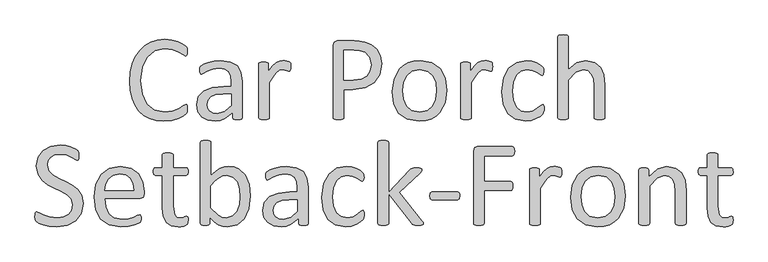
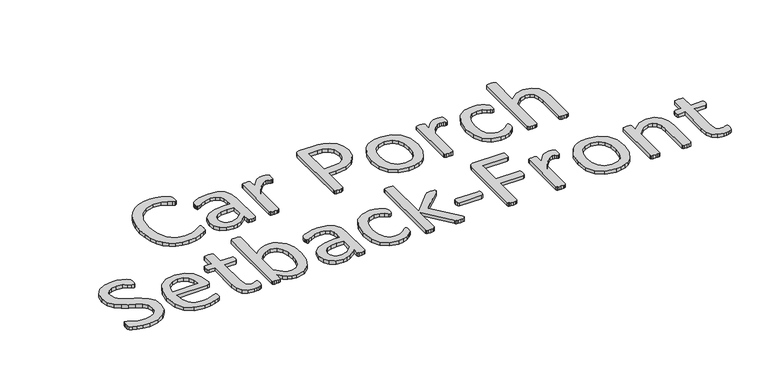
"""IFC4 building model written with IfcOpenShell, lengths in millimetres: proxy geometry, Marker-Setback Bldg Distance : Setback-Car Porch-Front."""

import ifcopenshell
import ifcopenshell.guid

model = None  # the IFC model being written
_history = None  # IfcOwnerHistory: only IFC2X3 demands one
_inside = {}  # id of a spatial element -> (the spatial element, [elements in it])
_under = {}  # id of a project, library or spatial element -> (it, [spatial elements below it])
_declared = {}  # id of a project -> (the project, [libraries it declares])
_typed = {}  # id of a type object -> (the type object, [elements of that type])
_made_of = {}  # id of a material, layer set ... -> (it, [elements and type objects made of it])


def new_model(schema):
    """Start an empty IFC model of exactly this schema.

    Asked for "IFC4X3", IfcOpenShell would pick the latest addendum, in which some entities
    have other attributes; the version numbers below select the first issue.
    IFC2X3 requires an IfcOwnerHistory on every rooted entity: one is made here for all.
    """
    global model, _history
    if schema == "IFC4X3":
        model = ifcopenshell.file(schema_version=(4, 3, 0, 0))
    else:
        model = ifcopenshell.file(schema=schema)
    _inside.clear()
    _under.clear()
    _declared.clear()
    _typed.clear()
    _made_of.clear()
    _history = None
    if model.schema == "IFC2X3":
        org = make("IfcOrganization", Name="unknown")
        user = make(
            "IfcPersonAndOrganization",
            ThePerson=make("IfcPerson", FamilyName="unknown"),
            TheOrganization=org,
        )
        app = make(
            "IfcApplication",
            ApplicationDeveloper=org,
            Version="unknown",
            ApplicationFullName="unknown",
            ApplicationIdentifier="unknown",
        )
        _history = make(
            "IfcOwnerHistory",
            OwningUser=user,
            OwningApplication=app,
            ChangeAction="ADDED",
            CreationDate=0,
        )
    return model


def make(cls, **values):
    """One entity of the class cls with the attributes given. An attribute that is None is left unset."""
    return model.create_entity(
        cls, **{name: value for name, value in values.items() if value is not None}
    )


def rooted(cls, **values):
    """An entity with a GlobalId (a new one), such as an element, a storey or a relation."""
    return make(cls, GlobalId=ifcopenshell.guid.new(), OwnerHistory=_history, **values)


def si_unit(unit_type, name, prefix=None):
    """IfcSIUnit, for example si_unit("LENGTHUNIT", "METRE", prefix="MILLI")."""
    return make("IfcSIUnit", UnitType=unit_type, Prefix=prefix, Name=name)


def assignment(units):
    """IfcUnitAssignment: the units of a project."""
    return None if units is None else make("IfcUnitAssignment", Units=units)


def point(xyz):
    """IfcCartesianPoint."""
    return None if xyz is None else make("IfcCartesianPoint", Coordinates=xyz)


def direction(xyz):
    """IfcDirection."""
    return None if xyz is None else make("IfcDirection", DirectionRatios=xyz)


def frame(location, z_axis=None, x_axis=None):
    """IfcAxis2Placement3D, a coordinate frame: its origin and axes. An axis left out is left unset."""
    return make(
        "IfcAxis2Placement3D",
        Location=point(location),
        Axis=direction(z_axis),
        RefDirection=direction(x_axis),
    )


def origin():
    """The frame at (0, 0, 0) with its axes left unset."""
    return frame((0.0, 0.0, 0.0))


def origin_with_axes():
    """The frame at (0, 0, 0) with the z axis (0, 0, 1) and the x axis (1, 0, 0) written out."""
    return frame((0.0, 0.0, 0.0), z_axis=(0.0, 0.0, 1.0), x_axis=(1.0, 0.0, 0.0))


def place(relative_to, where):
    """IfcLocalPlacement: puts the frame where relative to a parent placement (None: the world)."""
    return make(
        "IfcLocalPlacement", PlacementRelTo=relative_to, RelativePlacement=where
    )


def context(
    kind, dimensions, precision=None, world=None, true_north=None, identifier=None
):
    """IfcGeometricRepresentationContext, for example the 3D "Model" context."""
    return make(
        "IfcGeometricRepresentationContext",
        ContextIdentifier=identifier,
        ContextType=kind,
        CoordinateSpaceDimension=dimensions,
        Precision=precision,
        WorldCoordinateSystem=world,
        TrueNorth=true_north,
    )


def project(units=None, contexts=None):
    """IfcProject with its units and contexts."""
    return rooted(
        "IfcProject",
        Name="project",
        RepresentationContexts=contexts,
        UnitsInContext=assignment(units),
    )


def spatial(cls, under=None, at=None, **own):
    """A site, building, storey or space (cls), placed at a placement, below another one or the project."""
    s = rooted(cls, ObjectPlacement=at, **own)
    if under is not None:
        _under.setdefault(under.id(), (under, []))[1].append(s)
    return s


def polyline(points):
    """IfcPolyline through the points."""
    return make("IfcPolyline", Points=[point(p) for p in points])


def outline(outer, holes=None, kind="AREA"):
    """IfcArbitraryClosedProfileDef: a profile drawn as a closed curve; with holes, ...WithVoids."""
    if holes is None:
        return make("IfcArbitraryClosedProfileDef", ProfileType=kind, OuterCurve=outer)
    return make(
        "IfcArbitraryProfileDefWithVoids",
        ProfileType=kind,
        OuterCurve=outer,
        InnerCurves=holes,
    )


def extrude(swept, where, along, depth):
    """IfcExtrudedAreaSolid: the profile swept, set in the frame where, extruded along a direction by depth."""
    return make(
        "IfcExtrudedAreaSolid",
        SweptArea=swept,
        Position=where,
        ExtrudedDirection=direction(along),
        Depth=depth,
    )


def shape(context_of_items, identifier, shape_type, items):
    """IfcShapeRepresentation: the items that make up one representation, for example the "Body"."""
    return make(
        "IfcShapeRepresentation",
        ContextOfItems=context_of_items,
        RepresentationIdentifier=identifier,
        RepresentationType=shape_type,
        Items=items,
    )


def source(mapping_origin, context_of_items, identifier, shape_type, items):
    """IfcRepresentationMap: a shape defined once, which mapped items show again and again."""
    return make(
        "IfcRepresentationMap",
        MappingOrigin=mapping_origin,
        MappedRepresentation=shape(context_of_items, identifier, shape_type, items),
    )


def transform(
    local_origin,
    x_axis=None,
    y_axis=None,
    z_axis=None,
    scale=None,
    scale2=None,
    scale3=None,
    uniform=True,
):
    """IfcCartesianTransformationOperator3D, or its non-uniform kind. x_axis, y_axis, z_axis: its Axis1, 2, 3."""
    if uniform:
        return make(
            "IfcCartesianTransformationOperator3D",
            Axis1=direction(x_axis),
            Axis2=direction(y_axis),
            LocalOrigin=point(local_origin),
            Scale=scale,
            Axis3=direction(z_axis),
        )
    return make(
        "IfcCartesianTransformationOperator3DnonUniform",
        Axis1=direction(x_axis),
        Axis2=direction(y_axis),
        LocalOrigin=point(local_origin),
        Scale=scale,
        Axis3=direction(z_axis),
        Scale2=scale2,
        Scale3=scale3,
    )


def mapped(mapping_source, mapping_target):
    """IfcMappedItem: shows the shape of a source again, moved by a transform."""
    return make(
        "IfcMappedItem", MappingSource=mapping_source, MappingTarget=mapping_target
    )


def made_of(thing, what):
    """Note that an element or type object is made of a material, layer set ...; save() writes the relation."""
    if what is not None:
        _made_of.setdefault(what.id(), (what, []))[1].append(thing)
    return thing


def element(
    cls,
    number,
    at=None,
    inside=None,
    cuts=None,
    type_object=None,
    material=None,
    context=None,
    identifier="Body",
    shape_type=None,
    held_by="IfcProductDefinitionShape",
    body=None,
    shapes=None,
    **own,
):
    """One element of the class cls, such as IfcWall. Its Tag is "e" and its number.

    at: its placement. inside: the storey or other place that contains it. cuts: it is an
    opening in that element (IfcRelVoidsElement). A single representation is given by context,
    identifier, shape_type and body (its items); several are given by shapes. held_by: the class
    of the entity that holds the representations. save() writes the other relations.
    """
    e = rooted(cls, Tag="e%d" % number, ObjectPlacement=at, **own)
    if body is not None:
        shapes = [shape(context, identifier, shape_type, body)]
    if shapes is not None:
        e.Representation = make(held_by, Representations=shapes)
    if inside is not None:
        _inside.setdefault(inside.id(), (inside, []))[1].append(e)
    if cuts is not None:
        rooted(
            "IfcRelVoidsElement", RelatingBuildingElement=cuts, RelatedOpeningElement=e
        )
    if type_object is not None:
        _typed.setdefault(type_object.id(), (type_object, []))[1].append(e)
    return made_of(e, material)


def aggregate(whole, parts):
    """IfcRelAggregates: a whole, such as a stair, and the parts it consists of."""
    return rooted("IfcRelAggregates", RelatingObject=whole, RelatedObjects=parts)


def save(model, path):
    """Write the relations noted so far, then the file.

    IfcRelAggregates (storeys below a building ...), IfcRelContainedInSpatialStructure (elements
    in a storey), IfcRelDefinesByType, IfcRelAssociatesMaterial and IfcRelDeclares: one each for
    every whole, place, type object, material and project.
    """
    for whole, parts in _under.values():
        aggregate(whole, parts)
    for where, things in _inside.values():
        rooted(
            "IfcRelContainedInSpatialStructure",
            RelatedElements=things,
            RelatingStructure=where,
        )
    for kind, things in _typed.values():
        rooted("IfcRelDefinesByType", RelatedObjects=things, RelatingType=kind)
    for what, things in _made_of.values():
        rooted("IfcRelAssociatesMaterial", RelatedObjects=things, RelatingMaterial=what)
    for by, libraries in _declared.values():
        rooted("IfcRelDeclares", RelatingContext=by, RelatedDefinitions=libraries)
    model.write(path)


def generic_models_cca2efae(model_context):
    return source(origin(), model_context, "Body", "SweptSolid", [
        extrude(outline(polyline([(3352.0395191, 73.9609654), (3351.8887316, 69.5579718), (3351.3458968, 66.2708053), (3350.3205421, 63.7677336), (3348.1190454, 61.1741894), (3341.5748699, 56.5299359), (3329.1801414, 50.4381229), (3312.1411593, 45.4319795), (3291.1213886, 43.3812701), (3272.4086658, 45.0323927), (3255.5958649, 49.9857605), (3240.9016277, 58.1584404), (3228.5445961, 69.4674993), (3218.6529392, 83.8601616), (3211.3548265, 101.2836516), (3206.8538211, 121.6701151), (3205.353486, 144.9516977), (3206.9819904, 168.8590482), (3211.8675039, 190.0371458), (3219.700912, 208.3352031), (3230.1731005, 223.6024326), (3243.1182033, 235.7257437), (3258.370354, 244.5920458), (3275.6656747, 250.0203941), (3294.7402874, 251.8298435), (3311.809427, 250.1711816), (3327.2199045, 245.9792904), (3339.795578, 240.1287373), (3347.3952656, 234.6702315), (3350.1395972, 231.4735375), (3351.1649519, 228.9704658), (3351.7982592, 225.5626694), (3352.0395191, 220.8882584), (3351.7077867, 215.7313276), (3350.742747, 212.1727437), (3349.2348725, 210.0617194), (3347.0936907, 209.3680971), (3340.8510902, 212.3838461), (3330.507071, 219.018494), (3315.1569084, 225.6531419), (3293.4736728, 228.6688909), (3268.4429558, 223.2103852), (3249.1723195, 207.1364428), (3236.7775909, 181.2613161), (3232.3745973, 146.3389422), (3236.596646, 111.8990882), (3248.6596421, 86.8985287), (3267.960436, 71.6991536), (3293.8958777, 66.5422227), (3315.2775383, 69.5278143), (3330.8388034, 76.1926197), (3341.393925, 82.857425), (3347.8777854, 85.8430166), (3349.8078648, 85.3604967), (3351.0744794, 83.5510473), (3351.7982592, 79.8718335), (3352.0395191, 73.9609654)])), origin_with_axes(), (0.0, 0.0, 1.0), 10.0),
        extrude(outline(polyline([(3491.0052347, 51.8856824), (3489.6783051, 49.0810358), (3486.0594063, 47.6937913), (3479.3041284, 47.2414289), (3472.4583781, 47.6937913), (3468.7490068, 49.0810358), (3467.6030222, 51.8856824), (3467.6030222, 65.758128), (3447.2768737, 49.7143431), (3435.7265549, 44.9645384), (3423.5127713, 43.3812701), (3403.5786701, 46.2462317), (3388.4094525, 54.5395416), (3378.6685831, 67.8691523), (3375.2004717, 85.8430166), (3379.9955127, 106.289795), (3393.7473283, 120.7050754), (3415.6718238, 129.2999602), (3444.8642744, 132.1649218), (3463.9841233, 132.1649218), (3463.9841233, 143.6850831), (3462.2953039, 158.7638283), (3456.8669556, 169.6808398), (3447.1864012, 176.2551727), (3432.5600184, 178.486827), (3415.8226112, 176.0742277), (3402.8548904, 170.7665094), (3393.5362258, 165.4587911), (3387.9872476, 163.0461919), (3385.8159083, 163.6794992), (3384.2175613, 165.6095786), (3383.2223641, 168.9269025), (3382.9207892, 173.3600536), (3383.4636241, 179.6931266), (3386.1174832, 184.1262777), (3393.3552809, 188.6499012), (3405.1770171, 193.1132098), (3419.8033999, 196.4606912), (3435.8170273, 197.7876208), (3461.4508941, 194.3798244), (3478.5501912, 184.4278526), (3488.0498006, 168.1729653), (3491.0052347, 145.4945325), (3491.0052347, 51.8856824)]), holes=[polyline([(3463.9841233, 112.8641279), (3442.5119902, 112.8641279), (3424.5984409, 111.084836), (3411.9624525, 105.8374327), (3404.5738673, 97.5139653), (3402.2215831, 86.3255364), (3403.9104025, 76.584667), (3408.9768609, 69.0754519), (3417.0892258, 64.280411), (3427.9157649, 62.682064), (3446.251519, 67.7786798), (3463.9841233, 83.3701024), (3463.9841233, 112.8641279)])]), origin_with_axes(), (0.0, 0.0, 1.0), 10.0),
        extrude(outline(polyline([(3614.5303152, 182.3469857), (3614.3795278, 176.8583225), (3613.776378, 173.2997386), (3612.6605508, 171.2791868), (3610.7907864, 170.5855645), (3607.8655099, 171.2791868), (3603.9751936, 172.6664313), (3599.1198377, 173.9933609), (3593.299442, 174.6266682), (3585.9410144, 172.9680062), (3578.3714843, 167.539658), (3570.0781744, 157.5273712), (3560.4880925, 142.2375235), (3560.4880925, 51.9459974), (3559.8246277, 49.8952881), (3557.6834459, 48.4477285), (3553.6121847, 47.5430038), (3546.9172218, 47.2414289), (3540.3428889, 47.5430038), (3536.1811553, 48.4477285), (3534.0399734, 49.8952881), (3533.4669811, 51.9459974), (3533.4669811, 189.2228935), (3533.949501, 191.2736029), (3535.9097379, 192.7814774), (3539.6794241, 193.6862021), (3545.7712372, 193.927462), (3551.7424203, 193.6862021), (3555.4216341, 192.7814774), (3557.321556, 191.2736029), (3557.8945483, 189.2228935), (3557.8945483, 169.1983199), (3568.32904, 183.4929704), (3577.5873895, 192.2084851), (3586.2124318, 196.5813212), (3594.8676315, 197.7876208), (3599.2706251, 197.5765184), (3604.4577135, 196.7622661), (3609.3432269, 195.4051791), (3612.4192909, 193.927462), (3613.6255905, 192.5402175), (3614.1684253, 190.8212405), (3614.4700003, 187.775334), (3614.5303152, 182.3469857)])), origin_with_axes(), (0.0, 0.0, 1.0), 10.0),
        extrude(outline(polyline([(3846.1398412, 189.5847834), (3841.1940128, 162.623987), (3827.0199923, 142.1470511), (3804.4018746, 129.0587003), (3772.4349348, 124.4446042), (3749.6358721, 124.4446042), (3749.6358721, 52.1872573), (3748.9422498, 50.0460755), (3746.740753, 48.5683585), (3742.6393343, 47.6334763), (3736.1253164, 47.2414289), (3729.6112985, 47.6334763), (3725.4495648, 48.5683585), (3723.248068, 50.015918), (3722.6147607, 52.1872573), (3722.6147607, 236.5701534), (3725.8717697, 245.3459831), (3733.1698823, 247.9696848), (3776.2347786, 247.9696848), (3788.7199796, 247.4268499), (3802.8638426, 245.1047232), (3819.5107772, 238.5002328), (3833.8657427, 226.5880241), (3842.9431473, 210.1823493), (3846.1398412, 189.5847834)]), holes=[polyline([(3819.1187299, 187.4737591), (3814.4744764, 207.1062853), (3802.9844725, 218.8375491), (3788.8406095, 223.75322), (3774.6062741, 224.8087322), (3749.6358721, 224.8087322), (3749.6358721, 147.6055568), (3774.0031243, 147.6055568), (3794.3594303, 150.5911484), (3807.9604584, 158.8543007), (3816.2839258, 171.4902892), (3819.1187299, 187.4737591)])]), origin_with_axes(), (0.0, 0.0, 1.0), 10.0),
        extrude(outline(polyline([(4012.1266682, 122.09232), (4007.6633596, 90.4571126), (3994.3035914, 65.5470256), (3984.2913046, 56.2359004), (3972.0473635, 49.2318233), (3957.6245437, 44.8439084), (3941.0756209, 43.3812701), (3911.2197054, 48.538201), (3889.9888322, 63.5264737), (3877.3226863, 87.4112061), (3873.1609526, 119.2575159), (3877.5639462, 150.8927233), (3890.833242, 175.7726528), (3900.8078319, 185.0460811), (3912.9989974, 191.9973827), (3927.4067384, 196.3400613), (3944.031055, 197.7876208), (3973.9171279, 192.6306899), (3995.1480011, 177.6424172), (4007.8744621, 153.7576849), (4012.1266682, 122.09232)]), holes=[polyline([(3985.1055568, 120.2828706), (3983.02469, 141.2423264), (3976.1789397, 158.5527258), (3963.3016913, 170.3141471), (3943.0057003, 174.6266682), (3923.7350639, 170.676037), (3910.4657682, 159.5177655), (3902.7152932, 142.448626), (3900.182064, 120.8860204), (3902.2629308, 99.8059346), (3909.1689961, 82.5558501), (3922.136717, 70.8547439), (3942.4025505, 66.5422227), (3961.6128718, 70.492854), (3974.9726401, 81.5606529), (3982.6628001, 98.5694775), (3985.1055568, 120.2828706)])]), origin_with_axes(), (0.0, 0.0, 1.0), 10.0),
        extrude(outline(polyline([(4127.9314312, 182.3469857), (4127.7806437, 176.8583225), (4127.1774939, 173.2997386), (4126.0616668, 171.2791868), (4124.1919024, 170.5855645), (4121.2666258, 171.2791868), (4117.3763096, 172.6664313), (4112.5209536, 173.9933609), (4106.700558, 174.6266682), (4099.3421303, 172.9680062), (4091.7726003, 167.539658), (4083.4792904, 157.5273712), (4073.8892085, 142.2375235), (4073.8892085, 51.9459974), (4073.2257437, 49.8952881), (4071.0845619, 48.4477285), (4067.0133007, 47.5430038), (4060.3183378, 47.2414289), (4053.7440049, 47.5430038), (4049.5822712, 48.4477285), (4047.4410894, 49.8952881), (4046.8680971, 51.9459974), (4046.8680971, 189.2228935), (4047.3506169, 191.2736029), (4049.3108538, 192.7814774), (4053.0805401, 193.6862021), (4059.1723532, 193.927462), (4065.1435363, 193.6862021), (4068.8227501, 192.7814774), (4070.722672, 191.2736029), (4071.2956643, 189.2228935), (4071.2956643, 169.1983199), (4081.730156, 183.4929704), (4090.9885055, 192.2084851), (4099.6135477, 196.5813212), (4108.2687475, 197.7876208), (4112.6717411, 197.5765184), (4117.8588294, 196.7622661), (4122.7443429, 195.4051791), (4125.8204069, 193.927462), (4127.0267065, 192.5402175), (4127.5695413, 190.8212405), (4127.8711162, 187.775334), (4127.9314312, 182.3469857)])), origin_with_axes(), (0.0, 0.0, 1.0), 10.0),
        extrude(outline(polyline([(4259.1768293, 74.98632), (4259.0260418, 70.7642714), (4258.483207, 67.7485223), (4257.5784823, 65.3057656), (4255.165883, 61.6868668), (4248.6820226, 55.8061562), (4238.3983184, 49.5635557), (4226.0035899, 45.1002471), (4212.1311443, 43.3812701), (4185.9544427, 48.3874135), (4166.8647513, 63.0137964), (4155.1334875, 86.5969538), (4151.0923838, 118.835311), (4156.0382122, 154.5719371), (4169.5789254, 179.0296618), (4189.8146014, 193.1735248), (4215.0262634, 197.7876208), (4227.7527243, 196.4305337), (4239.0919407, 192.8719499), (4248.3201327, 187.8054915), (4254.1706859, 182.8898206), (4256.6737576, 179.6629691), (4257.8197422, 177.0995824), (4258.422892, 173.9330459), (4258.5736795, 169.4998948), (4257.2165924, 161.4780024), (4253.9294259, 159.1860331), (4248.7121801, 161.5986324), (4241.26328, 166.9063507), (4230.316111, 172.214069), (4215.2072083, 174.6266682), (4199.336829, 171.1283993), (4187.6734196, 160.6335927), (4180.5034763, 143.4739807), (4178.1134952, 119.9812957), (4180.5864094, 96.6393981), (4187.884522, 79.8718335), (4199.7364158, 69.8293892), (4215.8103581, 66.5422227), (4230.8589458, 69.5881293), (4242.0775322, 76.2830921), (4250.0692672, 82.8875825), (4255.1357256, 85.8430166), (4256.9150175, 85.2700243), (4258.2117896, 83.3399449), (4258.9657268, 79.901991), (4259.1768293, 74.98632)])), origin_with_axes(), (0.0, 0.0, 1.0), 10.0),
        extrude(outline(polyline([(4413.5831799, 52.0063124), (4412.9197151, 49.955603), (4410.7785333, 48.477886), (4406.7072721, 47.5430038), (4400.1329392, 47.2414289), (4393.4379764, 47.5430038), (4389.3667152, 48.4477285), (4387.2255334, 49.8952881), (4386.5620686, 52.0063124), (4386.5620686, 132.5871266), (4384.7827766, 151.5260306), (4379.6258458, 163.9207591), (4370.8500161, 171.8823366), (4358.3949726, 174.6266682), (4340.0893759, 167.9015478), (4320.9393695, 148.1483917), (4320.9393695, 52.0063124), (4320.2759047, 49.8952881), (4318.1347229, 48.4477285), (4314.0634617, 47.5430038), (4307.3684989, 47.2414289), (4300.794166, 47.5430038), (4296.6324323, 48.477886), (4294.4912505, 49.955603), (4293.9182582, 52.0063124), (4293.9182582, 258.4644914), (4294.4912505, 260.6358307), (4296.6324323, 262.1738627), (4300.794166, 263.1087449), (4307.3684989, 263.4103198), (4314.0634617, 263.1087449), (4318.1347229, 262.1738627), (4320.2759047, 260.6056732), (4320.9393695, 258.4644914), (4320.9393695, 174.9885581), (4342.6527626, 192.1783276), (4364.6677306, 197.7876208), (4387.7080532, 193.0830523), (4402.8169559, 180.5073788), (4411.0801082, 162.0811522), (4413.5831799, 136.5679154), (4413.5831799, 52.0063124)])), origin_with_axes(), (0.0, 0.0, 1.0), 10.0),
        extrude(outline(polyline([(3087.6186436, -166.3294418), (3082.4315552, -191.6617337), (3067.9861174, -210.5101651), (3046.2425668, -222.1811139), (3019.3420854, -226.1015877), (3000.6444414, -224.5937131), (2985.2641213, -220.8843418), (2973.9249049, -216.3305608), (2967.5616744, -212.3196146), (2964.9379728, -207.6753611), (2964.093563, -199.7439411), (2964.395138, -193.8632305), (2965.3300202, -190.0935442), (2966.8982097, -188.0729923), (2969.0997064, -187.5), (2975.281992, -189.9125992), (2985.5656962, -195.1600026), (3000.6745989, -200.4677209), (3021.0912198, -202.9406351), (3037.1651622, -200.5883508), (3049.6805207, -193.9537029), (3057.7627281, -183.4588963), (3060.5975322, -169.2848758), (3056.6167435, -154.5680205), (3046.1520943, -143.8621114), (3031.3447666, -135.4180141), (3014.275627, -127.5770666), (2997.2969599, -118.740922), (2982.5499471, -107.3413906), (2971.9948255, -91.9007555), (2967.9537218, -70.7301973), (2972.5678178, -48.081922), (2985.3847512, -31.4349874), (3004.926805, -21.1814406), (3029.4146872, -17.6530143), (3042.9554004, -18.9497864), (3055.7723338, -22.3877403), (3066.5084003, -27.1827812), (3072.6906858, -31.4651449), (3074.6207652, -33.9682166), (3075.40486, -36.1998708), (3075.8873798, -39.4870373), (3076.0381673, -44.4328657), (3075.7969074, -49.5596391), (3075.1032851, -53.2991679), (3073.7763555, -55.5308222), (3071.8161186, -56.2546019), (3066.3877704, -53.9023177), (3057.3405233, -48.6247569), (3044.6743773, -43.2567236), (3028.2687025, -40.8139669), (3013.5216898, -43.0154637), (3003.1475131, -48.8660168), (2997.0255425, -57.551374), (2994.9748332, -68.1969681), (2998.8953069, -82.7328785), (3009.3599561, -93.52926), (3024.2275988, -102.1543023), (3041.2062659, -110.0555647), (3058.2150905, -118.8313944), (3073.0827332, -130.1102958), (3083.6076974, -145.4303009), (3087.6186436, -166.3294418)])), origin_with_axes(), (0.0, 0.0, 1.0), 10.0),
        extrude(outline(polyline([(3242.0249942, -141.7209296), (3239.0394027, -150.2253419), (3232.1936524, -152.7585711), (3141.6608663, -152.7585711), (3143.9226781, -175.075114), (3151.4318932, -192.0839385), (3165.1233938, -203.00095), (3185.7511172, -206.8007938), (3202.8805718, -205.0215019), (3215.9086076, -201.0105557), (3224.9256972, -196.9996095), (3230.263573, -195.2203175), (3232.1333374, -195.7329949), (3233.4301095, -197.2408694), (3234.0935743, -200.045516), (3234.3046767, -204.4485096), (3234.1538893, -207.6753611), (3233.7618419, -210.1181178), (3233.0079046, -212.0783546), (3231.6508176, -213.7370166), (3226.7351466, -216.6622932), (3216.1498675, -220.8240269), (3201.0711223, -224.4730832), (3182.7956832, -226.1015877), (3153.3318151, -221.2763892), (3132.0707844, -206.9214238), (3119.0427485, -183.0065339), (3114.6397549, -149.6221921), (3119.253851, -117.0521025), (3132.5533042, -92.5642203), (3153.5429175, -77.0934278), (3181.1068637, -71.695237), (3208.8517548, -76.9124828), (3227.7001863, -90.9658733), (3238.5568829, -111.6840692), (3242.0249942, -137.0766761), (3242.0249942, -141.7209296)]), holes=[polyline([(3215.0038829, -133.4577773), (3213.0511854, -115.747791), (3206.3486831, -102.3050897), (3195.0622424, -93.8232956), (3179.3577293, -90.9960308), (3163.2837869, -94.4942997), (3151.7334681, -103.8129642), (3144.5258279, -117.3536774), (3141.6608663, -133.4577773), (3215.0038829, -133.4577773)])]), origin_with_axes(), (0.0, 0.0, 1.0), 10.0),
        extrude(outline(polyline([(3353.9695985, -208.3689833), (3353.3664487, -215.9083559), (3351.5268418, -220.0097746), (3347.8476279, -222.4826888), (3342.2684922, -224.3826107), (3335.6036868, -225.6190678), (3328.5769916, -226.1015877), (3310.21108, -223.1763111), (3297.6957215, -214.3401664), (3290.5785537, -199.3518937), (3288.3468994, -177.9099181), (3288.3468994, -94.8561896), (3270.0111453, -94.8561896), (3266.4827189, -92.5943778), (3265.1859468, -85.2661077), (3265.5478367, -80.7726416), (3266.4827189, -77.7267351), (3268.0207509, -76.0379156), (3270.1317753, -75.5553958), (3288.3468994, -75.5553958), (3288.3468994, -41.9599515), (3288.9198918, -39.9393996), (3291.0610736, -38.2807377), (3295.2228073, -37.255383), (3301.7971402, -36.9538081), (3308.492103, -37.255383), (3312.5633642, -38.2807377), (3314.704546, -39.9393996), (3315.3680108, -41.9599515), (3315.3680108, -75.5553958), (3349.1444, -75.5553958), (3351.1649519, -76.0379156), (3352.7029839, -77.7267351), (3353.6680236, -80.7726416), (3353.9695985, -85.2661077), (3352.6426689, -92.5943778), (3349.1444, -94.8561896), (3315.3680108, -94.8561896), (3315.3680108, -173.5069245), (3319.378957, -195.4917349), (3324.9807109, -201.07841), (3333.7640799, -202.9406351), (3339.7654205, -202.2470128), (3344.4398315, -200.7994533), (3347.9682579, -199.3217362), (3350.5919596, -198.5979565), (3353.0045588, -200.4677209), (3353.6680236, -203.4834699), (3353.9695985, -208.3689833)])), origin_with_axes(), (0.0, 0.0, 1.0), 10.0),
        extrude(outline(polyline([(3512.2361079, -147.0889629), (3508.3759491, -179.9606274), (3497.0065753, -204.8707145), (3478.5501912, -220.6430819), (3453.4893167, -226.1015877), (3441.4263205, -224.7746581), (3430.569624, -220.462137), (3419.9541874, -212.9529219), (3408.735601, -202.0359104), (3408.735601, -217.7781203), (3408.0721362, -219.7986722), (3405.9309544, -221.1557592), (3402.2517406, -221.939854), (3396.6122899, -222.2414289), (3391.0633116, -221.939854), (3387.2936253, -221.0954443), (3385.3333885, -219.6177272), (3384.8508686, -217.4765454), (3384.8508686, -11.0183664), (3385.4238609, -8.8470271), (3387.5650427, -7.3089951), (3391.7267764, -6.3741129), (3398.3011093, -6.072538), (3404.9960722, -6.3741129), (3409.0673334, -7.3089951), (3411.2085152, -8.8771846), (3411.87198, -11.0183664), (3411.87198, -94.7958746), (3423.6032437, -84.0296506), (3434.7313577, -76.9124828), (3445.6182117, -72.9316941), (3457.1082155, -71.695237), (3470.8675705, -73.2181903), (3482.4706649, -77.7870501), (3499.6001195, -94.1022523), (3509.2203589, -118.0774572), (3512.2361079, -147.0889629)]), holes=[polyline([(3485.2149965, -150.044397), (3483.646807, -129.507146), (3478.1581438, -111.8650142), (3467.8141246, -99.5306006), (3451.7401822, -94.8561896), (3442.3310452, -96.2132767), (3432.8917508, -100.7369002), (3422.9096215, -108.8492651), (3411.87198, -121.3344661), (3411.87198, -177.3670832), (3431.3537188, -196.3964597), (3440.8382495, -201.3045912), (3450.7148276, -202.9406351), (3466.607825, -198.326539), (3477.3438916, -186.1429129), (3483.3452321, -169.1340884), (3485.2149965, -150.044397)])]), origin_with_axes(), (0.0, 0.0, 1.0), 10.0),
        extrude(outline(polyline([(3658.922141, -217.5971754), (3657.5952115, -220.401822), (3653.9763126, -221.7890665), (3647.2210348, -222.2414289), (3640.3752845, -221.7890665), (3636.6659132, -220.401822), (3635.5199285, -217.5971754), (3635.5199285, -203.7247298), (3615.19378, -219.7685147), (3603.6434612, -224.5183194), (3591.4296776, -226.1015877), (3571.4955765, -223.2366261), (3556.3263588, -214.9433162), (3546.5854894, -201.6137055), (3543.117378, -183.6398412), (3547.912419, -163.1930628), (3561.6642346, -148.7777824), (3583.5887301, -140.1828976), (3612.7811808, -137.317936), (3631.9010297, -137.317936), (3631.9010297, -125.7977747), (3630.2122102, -110.7190295), (3624.783862, -99.802018), (3615.1033075, -93.2276851), (3600.4769247, -90.9960308), (3583.7395176, -93.4086301), (3570.7717967, -98.7163484), (3561.4531322, -104.0240667), (3555.904154, -106.4366659), (3553.7328147, -105.8033586), (3552.1344677, -103.8732792), (3551.1392705, -100.5559553), (3550.8376956, -96.1228042), (3551.3805304, -89.7897312), (3554.0343896, -85.3565801), (3561.2721872, -80.8329566), (3573.0939235, -76.369648), (3587.7203063, -73.0221666), (3603.7339337, -71.695237), (3629.3678005, -75.1030334), (3646.4670975, -85.0550052), (3655.966707, -101.3098925), (3658.922141, -123.9883253), (3658.922141, -217.5971754)]), holes=[polyline([(3631.9010297, -156.6187299), (3610.4288965, -156.6187299), (3592.5153473, -158.3980218), (3579.8793588, -163.6454251), (3572.4907737, -171.9688925), (3570.1384894, -183.1573214), (3571.8273089, -192.8981908), (3576.8937673, -200.4074059), (3585.0061322, -205.2024468), (3595.8326712, -206.8007938), (3614.1684253, -201.704178), (3631.9010297, -186.1127554), (3631.9010297, -156.6187299)])]), origin_with_axes(), (0.0, 0.0, 1.0), 10.0),
        extrude(outline(polyline([(3801.7480154, -194.4965378), (3801.597228, -198.7185864), (3801.0543931, -201.7343355), (3800.1496684, -204.1770922), (3797.7370692, -207.795991), (3791.2532088, -213.6767016), (3780.9695046, -219.9193021), (3768.574776, -224.3826107), (3754.7023304, -226.1015877), (3728.5256288, -221.0954443), (3709.4359374, -206.4690614), (3697.7046737, -182.885904), (3693.6635699, -150.6475468), (3698.6093984, -114.9109207), (3712.1501115, -90.453196), (3732.3857876, -76.309333), (3757.5974495, -71.695237), (3770.3239105, -73.0523241), (3781.6631268, -76.6109079), (3790.8913189, -81.6773663), (3796.741872, -86.5930372), (3799.2449437, -89.8198887), (3800.3909284, -92.3832754), (3800.9940782, -95.5498119), (3801.1448656, -99.982963), (3799.7877785, -108.0048554), (3796.5006121, -110.2968247), (3791.2833663, -107.8842254), (3783.8344661, -102.5765071), (3772.8872971, -97.2687888), (3757.7783945, -94.8561896), (3741.9080152, -98.3544585), (3730.2446058, -108.8492651), (3723.0746624, -126.0088771), (3720.6846813, -149.5015621), (3723.1575955, -172.8434597), (3730.4557082, -189.6110243), (3742.3076019, -199.6534686), (3758.3815443, -202.9406351), (3773.430132, -199.8947285), (3784.6487184, -193.1997657), (3792.6404533, -186.5952753), (3797.7069117, -183.6398412), (3799.4862036, -184.2128336), (3800.7829757, -186.1429129), (3801.536913, -189.5808668), (3801.7480154, -194.4965378)])), origin_with_axes(), (0.0, 0.0, 1.0), 10.0),
        extrude(outline(polyline([(3952.2942073, -217.3559155), (3951.6609, -219.4970973), (3949.5800332, -221.0351293), (3945.508772, -221.939854), (3938.8439666, -222.2414289), (3931.9680588, -222.000169), (3927.3841203, -221.2462317), (3924.3683712, -219.7383572), (3922.2573469, -217.3559155), (3863.5105557, -141.4193547), (3863.5105557, -217.5368604), (3862.8470909, -219.5875697), (3860.7059091, -221.0351293), (3856.6346479, -221.939854), (3849.939685, -222.2414289), (3843.3653521, -221.939854), (3839.2036184, -221.0049718), (3837.0624366, -219.5272548), (3836.4894443, -217.4765454), (3836.4894443, -11.0183664), (3837.0624366, -8.8470271), (3839.2036184, -7.3089951), (3843.3653521, -6.3741129), (3849.939685, -6.072538), (3856.6346479, -6.3741129), (3860.7059091, -7.3089951), (3862.8470909, -8.8771846), (3863.5105557, -11.0786814), (3863.5105557, -137.9210858), (3917.1908885, -80.8631141), (3919.8749052, -78.3600424), (3923.2525441, -76.7013804), (3927.8967976, -75.7966557), (3934.380658, -75.5553958), (3941.0153059, -75.7966557), (3945.327827, -76.5505929), (3947.7102688, -77.90768), (3948.4340486, -80.1393343), (3947.3785364, -83.7883906), (3943.85011, -88.0405968), (3890.5316671, -137.7401409), (3948.4943635, -210.1784328), (3951.4196401, -214.3703239), (3952.2942073, -217.3559155)])), origin_with_axes(), (0.0, 0.0, 1.0), 10.0),
        extrude(outline(polyline([(4044.9380177, -146.908018), (4043.5206157, -154.5077055), (4039.3890395, -156.6187299), (3973.4044506, -156.6187299), (3969.1522444, -154.4473906), (3967.7348424, -146.908018), (3969.1522444, -139.4289604), (3973.4044506, -137.317936), (4039.3890395, -137.317936), (4041.6810088, -137.7401409), (4043.4301432, -139.3686454), (4044.5459703, -142.3843944), (4044.9380177, -146.908018)])), origin_with_axes(), (0.0, 0.0, 1.0), 10.0),
        extrude(outline(polyline([(4183.9037333, -33.2745943), (4183.6021584, -38.4918401), (4182.5466463, -42.050424), (4180.7975118, -44.0408183), (4178.716645, -44.6741256), (4106.700558, -44.6741256), (4106.700558, -110.2968247), (4174.7358562, -110.2968247), (4176.8167231, -110.869817), (4178.5658575, -112.7395814), (4179.6213697, -116.2076928), (4179.9229446, -121.816986), (4179.6213697, -127.0643893), (4178.5658575, -130.6229732), (4176.8167231, -132.7339975), (4174.7358562, -133.4577773), (4106.700558, -133.4577773), (4106.700558, -217.2956005), (4106.0672507, -219.3764673), (4103.8657539, -220.9144993), (4099.7944927, -221.8493815), (4093.1900023, -222.2414289), (4086.7362994, -221.8493815), (4082.5142507, -220.9144993), (4080.3127539, -219.3764673), (4079.6794466, -217.2956005), (4079.6794466, -32.3095546), (4082.8158256, -23.8956148), (4089.5107885, -21.513173), (4178.716645, -21.513173), (4180.7371968, -22.1464803), (4182.5164888, -24.1971897), (4183.6021584, -27.9367185), (4183.9037333, -33.2745943)])), origin_with_axes(), (0.0, 0.0, 1.0), 10.0),
        extrude(outline(polyline([(4303.5686551, -87.1358721), (4303.4178676, -92.6245353), (4302.8147178, -96.1831192), (4301.6988907, -98.203671), (4299.8291263, -98.8972933), (4296.9038497, -98.203671), (4293.0135335, -96.8164265), (4288.1581775, -95.4894969), (4282.3377819, -94.8561896), (4274.9793542, -96.5148516), (4267.4098241, -101.9431998), (4259.1165143, -111.9554866), (4249.5264324, -127.2453343), (4249.5264324, -217.5368604), (4248.8629676, -219.5875697), (4246.7217857, -221.0351293), (4242.6505245, -221.939854), (4235.9555617, -222.2414289), (4229.3812288, -221.939854), (4225.2194951, -221.0351293), (4223.0783133, -219.5875697), (4222.505321, -217.5368604), (4222.505321, -80.2599643), (4222.9878408, -78.2092549), (4224.9480777, -76.7013804), (4228.717764, -75.7966557), (4234.8095771, -75.5553958), (4240.7807601, -75.7966557), (4244.459974, -76.7013804), (4246.3598959, -78.2092549), (4246.9328882, -80.2599643), (4246.9328882, -100.2845379), (4257.3673798, -85.9898874), (4266.6257294, -77.2743727), (4275.2507716, -72.9015366), (4283.9059714, -71.695237), (4288.308965, -71.9063394), (4293.4960533, -72.7205917), (4298.3815667, -74.0776787), (4301.4576308, -75.5553958), (4302.6639304, -76.9426403), (4303.2067652, -78.6616173), (4303.5083401, -81.7075238), (4303.5686551, -87.1358721)])), origin_with_axes(), (0.0, 0.0, 1.0), 10.0),
        extrude(outline(polyline([(4465.6953233, -147.3905378), (4461.2320147, -179.0257452), (4447.8722465, -203.9358322), (4437.8599597, -213.2469574), (4425.6160186, -220.2510345), (4411.1931988, -224.6389494), (4394.644276, -226.1015877), (4364.7883605, -220.9446568), (4343.5574873, -205.9563841), (4330.8913414, -182.0716517), (4326.7296077, -150.2253419), (4331.1326013, -118.5901345), (4344.401897, -93.710205), (4354.376487, -84.4367767), (4366.5676525, -77.4854751), (4380.9753935, -73.1427965), (4397.59971, -71.695237), (4427.485783, -76.8521679), (4448.7166562, -91.8404406), (4461.4431171, -115.7251729), (4465.6953233, -147.3905378)]), holes=[polyline([(4438.6742119, -149.1999872), (4436.5933451, -128.2405314), (4429.7475948, -110.930132), (4416.8703464, -99.1687107), (4396.5743554, -94.8561896), (4377.303719, -98.8068208), (4364.0344233, -109.9650923), (4356.2839482, -127.0342318), (4353.7507191, -148.5968374), (4355.8315859, -169.6769232), (4362.7376512, -186.9270077), (4375.705372, -198.6281139), (4395.9712056, -202.9406351), (4415.1815269, -198.9900038), (4428.5412952, -187.9222049), (4436.2314552, -170.9133803), (4438.6742119, -149.1999872)])]), origin_with_axes(), (0.0, 0.0, 1.0), 10.0),
        extrude(outline(polyline([(4620.101674, -217.4765454), (4619.4382092, -219.5272548), (4617.2970273, -221.0049718), (4613.2257661, -221.939854), (4606.6514333, -222.2414289), (4599.9564704, -221.939854), (4595.8852092, -221.0351293), (4593.7440274, -219.5875697), (4593.0805626, -217.4765454), (4593.0805626, -136.8957312), (4591.3012707, -117.9568272), (4586.1443398, -105.5620987), (4577.3685101, -97.6005212), (4564.9134666, -94.8561896), (4546.6078699, -101.58131), (4527.4578636, -121.3344661), (4527.4578636, -217.4765454), (4526.7943988, -219.5875697), (4524.6532169, -221.0351293), (4520.5819557, -221.939854), (4513.8869929, -222.2414289), (4507.31266, -221.939854), (4503.1509263, -221.0351293), (4501.0097445, -219.5875697), (4500.4367522, -217.5368604), (4500.4367522, -80.2599643), (4500.919272, -78.2092549), (4502.8795089, -76.7013804), (4506.6491952, -75.7966557), (4512.7410083, -75.5553958), (4518.7121913, -75.7966557), (4522.3914052, -76.7013804), (4524.2913271, -78.2092549), (4524.8643194, -80.2599643), (4524.8643194, -98.4147735), (4547.9347995, -78.1187824), (4571.1259096, -71.695237), (4594.1662322, -76.3998055), (4609.3052924, -88.975479), (4617.5986023, -107.4017056), (4620.101674, -132.7943125), (4620.101674, -217.4765454)])), origin_with_axes(), (0.0, 0.0, 1.0), 10.0),
        extrude(outline(polyline([(4739.7665957, -208.3689833), (4739.1634459, -215.9083559), (4737.323839, -220.0097746), (4733.6446252, -222.4826888), (4728.0654895, -224.3826107), (4721.4006841, -225.6190678), (4714.3739888, -226.1015877), (4696.0080772, -223.1763111), (4683.4927187, -214.3401664), (4676.375551, -199.3518937), (4674.1438967, -177.9099181), (4674.1438967, -94.8561896), (4655.8081425, -94.8561896), (4652.2797162, -92.5943778), (4650.9829441, -85.2661077), (4651.344834, -80.7726416), (4652.2797162, -77.7267351), (4653.8177482, -76.0379156), (4655.9287725, -75.5553958), (4674.1438967, -75.5553958), (4674.1438967, -41.9599515), (4674.716889, -39.9393996), (4676.8580708, -38.2807377), (4681.0198045, -37.255383), (4687.5941374, -36.9538081), (4694.2891003, -37.255383), (4698.3603614, -38.2807377), (4700.5015433, -39.9393996), (4701.1650081, -41.9599515), (4701.1650081, -75.5553958), (4734.9413973, -75.5553958), (4736.9619491, -76.0379156), (4738.4999811, -77.7267351), (4739.4650208, -80.7726416), (4739.7665957, -85.2661077), (4738.4396661, -92.5943778), (4734.9413973, -94.8561896), (4701.1650081, -94.8561896), (4701.1650081, -173.5069245), (4705.1759543, -195.4917349), (4710.7777081, -201.07841), (4719.5610772, -202.9406351), (4725.5624178, -202.2470128), (4730.2368288, -200.7994533), (4733.7652551, -199.3217362), (4736.3889568, -198.5979565), (4738.801556, -200.4677209), (4739.4650208, -203.4834699), (4739.7665957, -208.3689833)])), origin_with_axes(), (0.0, 0.0, 1.0), 10.0),
    ])


if __name__ == "__main__":
    model = new_model("IFC4")
    model_context = context("Model", 3, world=origin())
    ifc_project = project(units=[si_unit("LENGTHUNIT", "METRE", prefix="MILLI")], contexts=[model_context])
    site = spatial("IfcSite", under=ifc_project)
    building = spatial("IfcBuilding", under=site)
    placement = place(None, origin())
    generic_models_shape = generic_models_cca2efae(model_context)
    element("IfcBuildingElementProxy", 1, Name="Marker-Setback Bldg Distance : Setback-Car Porch-Front", ObjectType="Marker-Setback Bldg Distance : Setback-Car Porch-Front", at=placement, inside=building, context=model_context, shape_type="MappedRepresentation", body=[
        mapped(generic_models_shape, transform((0.0, 0.0, 0.0), x_axis=(1.0, 0.0, 0.0), y_axis=(0.0, 1.0, 0.0), z_axis=(0.0, 0.0, 1.0))),
    ])
    save(model, "model.ifc")
